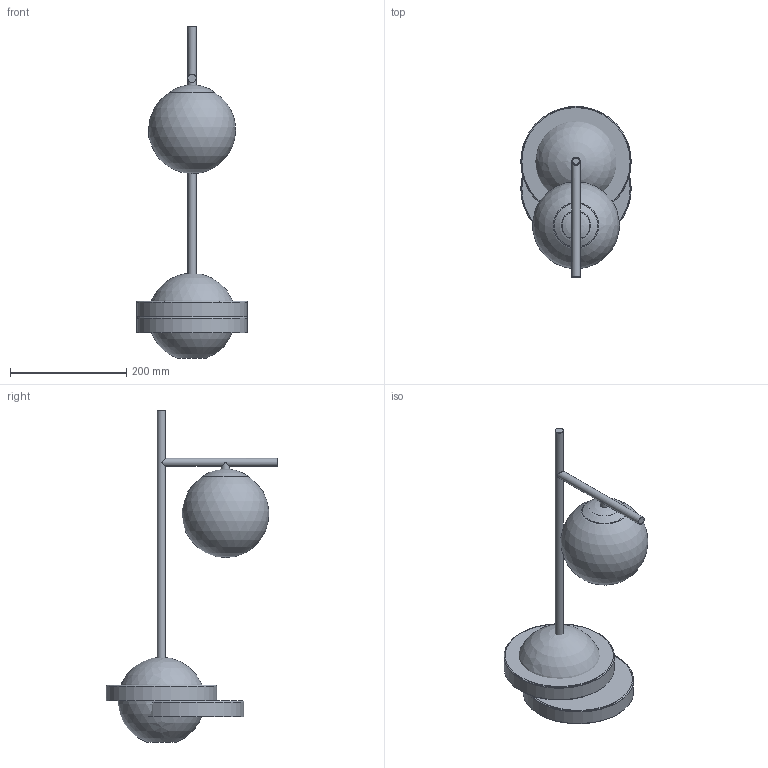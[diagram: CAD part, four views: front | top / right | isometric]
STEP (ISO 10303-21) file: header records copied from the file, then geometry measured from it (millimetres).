
FILE_DESCRIPTION( ( 'STEP AP203' ), '1' );
FILE_NAME( '//srvbf/BF Disegni/ATHENA/ATHENA-L Lumetto 3D.stl.stp', '2020-10-16T12:43:46', ( ' ' ), ( ' ' ), 'XStep 1.0', ' ', ' ' );
FILE_SCHEMA( ( 'CONFIG_CONTROL_DESIGN) ( )' ) );
Length unit declared in the file: metre
Products named in the file (7): Assem1; 1; 2; 3; 4; 5; 6
Bounding box: 190 x 295 x 570.71 mm (x, y, z)
Volume: 315521.2 mm3; surface area: 579202 mm2
Topology: 12 solids, 12 shells, 74 faces, 150 edges, 100 vertices
Faces by surface type: cylinder 32, plane 30, sphere 8, torus 4
Full cylindrical faces by diameter (mm): 8.917 x4, 10 x4, 10.5 x2, 10.8 x4, 11 x6, 14 x6, 48 x2, 188 x2, 190 x2
Entity records: 1266 total; most frequent: CARTESIAN_POINT 268, DIRECTION 166, AXIS2_PLACEMENT_3D 83, ORIENTED_EDGE 82, EDGE_LOOP 74, FACE_OUTER_BOUND 57, EDGE_CURVE 41, VERTEX_POINT 41
